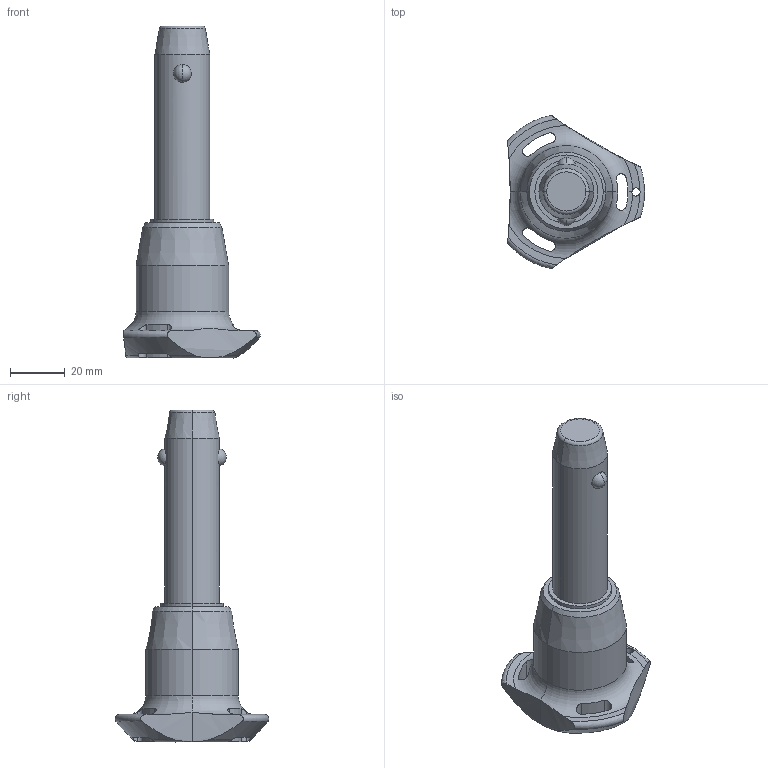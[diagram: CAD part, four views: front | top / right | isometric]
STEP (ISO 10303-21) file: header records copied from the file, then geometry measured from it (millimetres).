
FILE_DESCRIPTION (( 'STEP AP203' ), '1' );
FILE_NAME ('QR1714.M20-050-S.step', '2025-11-12T10:26:08', ( '' ), ( '' ), 'SwSTEP 2.0', 'SolidWorks 2019', '' );
FILE_SCHEMA (( 'CONFIG_CONTROL_DESIGN' ));
Length unit declared in the file: millimetre
Products named in the file (1): QR1714.M20-050-S
Bounding box: 50.04 x 56.02 x 121.2 mm (x, y, z)
Volume: 69485 mm3; surface area: 14108.9 mm2
Topology: 1 solids, 1 shells, 65 faces, 176 edges, 111 vertices
Faces by surface type: cylinder 30, cone 14, torus 11, sphere 6, plane 4
Entity records: 2858 total; most frequent: CARTESIAN_POINT 1179, ORIENTED_EDGE 352, DIRECTION 329, EDGE_CURVE 176, AXIS2_PLACEMENT_3D 147, VERTEX_POINT 111, CIRCLE 81, EDGE_LOOP 71
